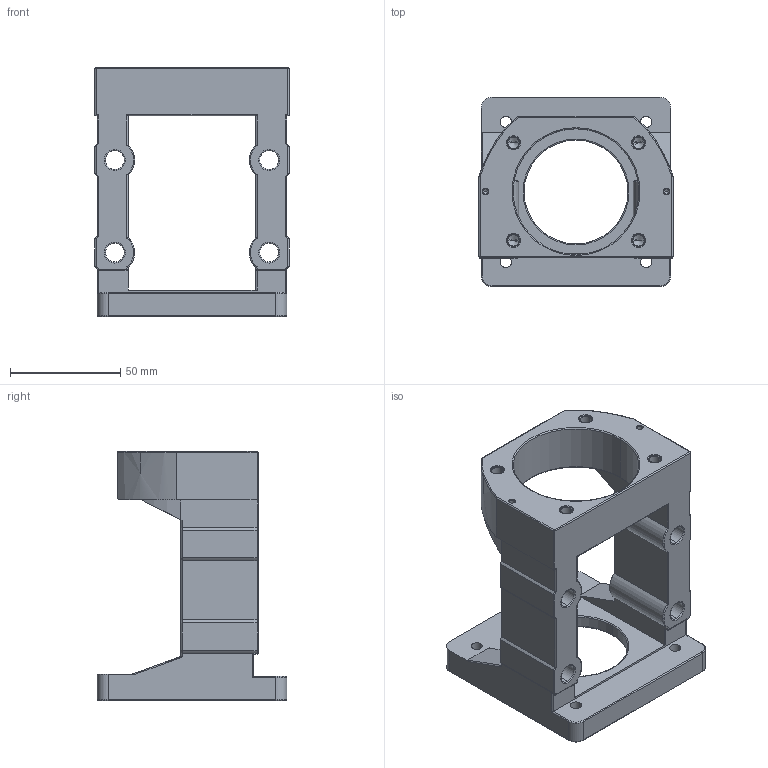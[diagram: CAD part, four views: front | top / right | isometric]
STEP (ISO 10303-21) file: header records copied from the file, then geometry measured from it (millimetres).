
FILE_DESCRIPTION (( 'STEP AP203' ), '1' );
FILE_NAME ('MBL20-E.STEP', '2019-01-02T03:36:07', ( '' ), ( '' ), 'SwSTEP 2.0', 'SolidWorks 2018', '' );
FILE_SCHEMA (( 'CONFIG_CONTROL_DESIGN' ));
Length unit declared in the file: millimetre
Products named in the file (1): MBL20-E
Bounding box: 88 x 86 x 113 mm (x, y, z)
Volume: 189130.2 mm3; surface area: 52123.1 mm2
Topology: 1 solids, 1 shells, 265 faces, 644 edges, 375 vertices
Faces by surface type: cylinder 106, plane 58, torus 54, cone 45, sphere 2
Entity records: 7821 total; most frequent: CARTESIAN_POINT 1534, DIRECTION 1381, ORIENTED_EDGE 1260, EDGE_CURVE 630, AXIS2_PLACEMENT_3D 554, VERTEX_POINT 375, EDGE_LOOP 295, CIRCLE 288
